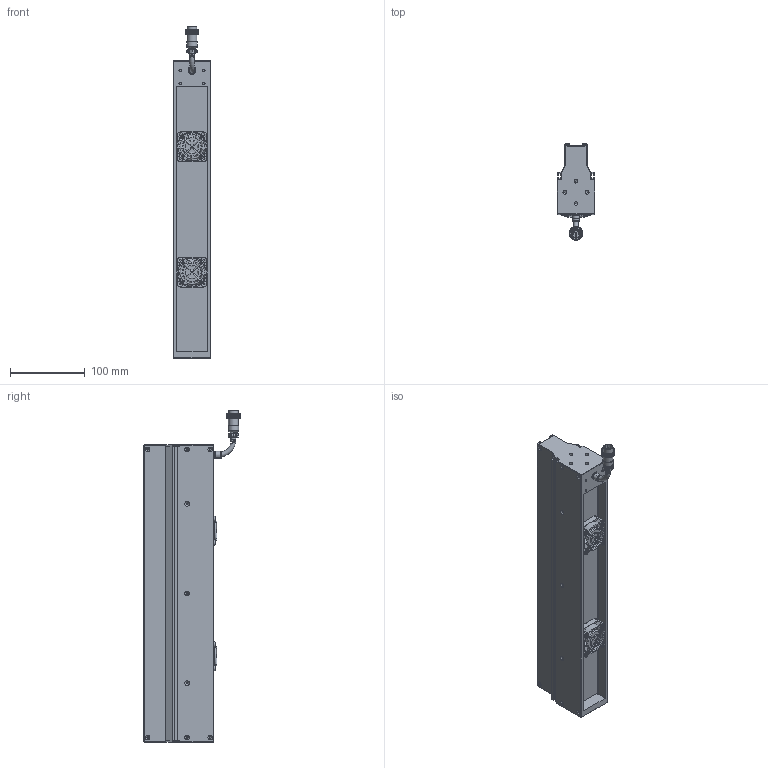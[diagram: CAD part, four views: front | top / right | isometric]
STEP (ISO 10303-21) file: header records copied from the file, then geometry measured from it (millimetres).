
FILE_DESCRIPTION (( 'STEP AP203' ), '1' );
FILE_NAME ('OPT-LSS398-R-V3.1U尨砩芞.STEP', '2025-01-21T01:50:27', ( 'USER' ), ( '' ), 'SwSTEP 2.0', 'SolidWorks 2016', '' );
FILE_SCHEMA (( 'CONFIG_CONTROL_DESIGN' ));
Length unit declared in the file: millimetre
Products named in the file (2): OPT-LSS398-R-V3.1U尨砩芞
Bounding box: 50 x 129.15 x 444.83 mm (x, y, z)
Volume: 1323262.3 mm3; surface area: 215491.5 mm2
Topology: 14 solids, 24 shells, 3734 faces, 8249 edges, 4628 vertices
Faces by surface type: bspline 2113, cylinder 766, plane 684, torus 118, cone 53
Full cylindrical faces by diameter (mm): 0.95 x6, 1.1 x2, 1.4 x2, 1.6 x8, 2 x6, 2.5 x18, 3.2 x12, 3.4 x18, 4 x6, 5 x8, 6.2 x8, 6.4 x3, 7.5 x1, 8.6 x1, 9.3 x1, 9.8 x1, 10 x1, 13.2 x1, 14 x1, 16.1 x1, 24.8 x2, 38 x2
Entity records: 125753 total; most frequent: CARTESIAN_POINT 63391, ORIENTED_EDGE 15946, EDGE_CURVE 7973, DIRECTION 6302, B_SPLINE_CURVE_WITH_KNOTS 5588, VERTEX_POINT 4566, EDGE_LOOP 4047, FACE_OUTER_BOUND 3887
